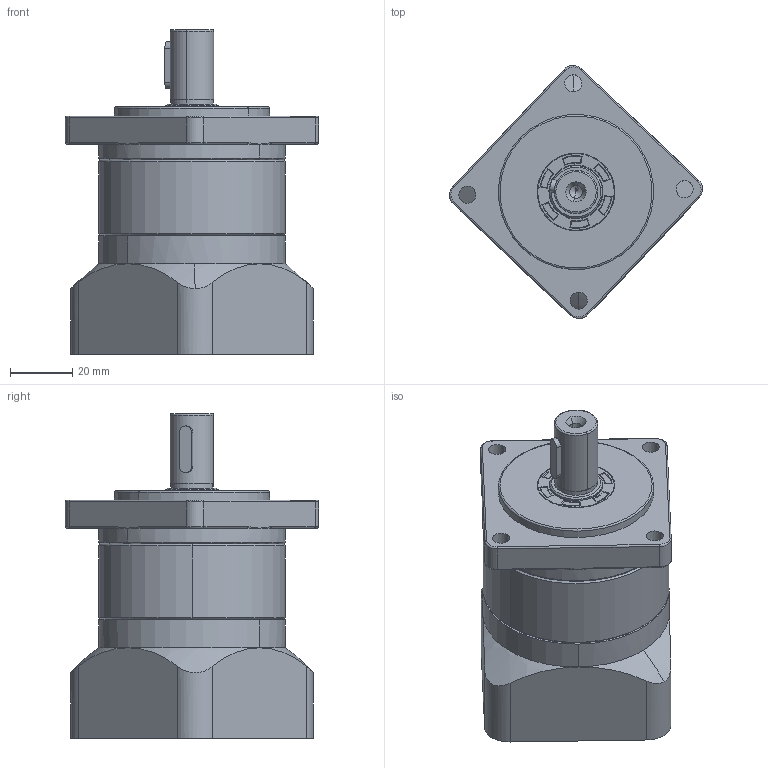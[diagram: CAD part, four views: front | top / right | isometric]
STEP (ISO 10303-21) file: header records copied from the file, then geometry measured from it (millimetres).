
FILE_DESCRIPTION (( 'STEP AP214' ), '1' );
FILE_NAME ('S60-L1.STEP', '2017-06-15T03:43:30', ( '' ), ( '' ), 'SwSTEP 2.0', 'SolidWorks 2015', '' );
FILE_SCHEMA (( 'AUTOMOTIVE_DESIGN' ));
Length unit declared in the file: millimetre
Products named in the file (8): 4X4X15潬; S-60型_內齒環; S-60倰_源倰菁釱-侜督SE; S-60型_入力軸; S-60倰_堤薯嵞; S-60倰_源倛奻屳; S60-L1; 蚐猾_TC 17-25-4
Assembly tree (7 placements, depth 2):
  S60-L1
    S-60型_內齒環
    S-60倰_源倰菁釱-侜督SE
    S-60倰_源倛奻屳
    S-60倰_堤薯嵞
    4X4X15潬
    蚐猾_TC 17-25-4
    S-60型_入力軸
Bounding box: 81.5 x 81.5 x 104.6 mm (x, y, z)
Volume: 161042.1 mm3; surface area: 58786 mm2
Topology: 7 solids, 7 shells, 376 faces, 885 edges, 543 vertices
Faces by surface type: cylinder 178, plane 88, cone 60, bspline 24, torus 20, sphere 6
Entity records: 12175 total; most frequent: CARTESIAN_POINT 3105, DIRECTION 1963, ORIENTED_EDGE 1730, EDGE_CURVE 865, AXIS2_PLACEMENT_3D 817, VERTEX_POINT 543, EDGE_LOOP 456, CIRCLE 455
